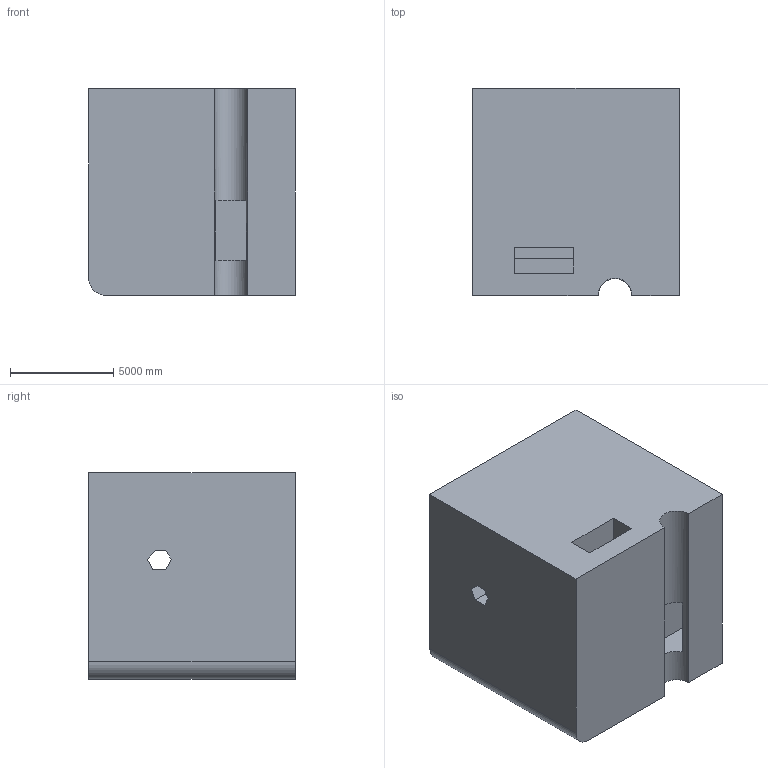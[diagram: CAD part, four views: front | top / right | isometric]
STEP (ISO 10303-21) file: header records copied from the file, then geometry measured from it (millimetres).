
FILE_DESCRIPTION (( 'STEP AP203' ), '1' );
FILE_NAME ('54.STEP', '2022-08-30T14:13:38', ( 'user' ), ( '' ), 'SwSTEP 2.0', 'SolidWorks 2021', '' );
FILE_SCHEMA (( 'CONFIG_CONTROL_DESIGN' ));
Length unit declared in the file: centimetre
Products named in the file (1): 54
Bounding box: 10000 x 10000 x 10000 mm (x, y, z)
Volume: 914703472684.6 mm3; surface area: 763957528.9 mm2
Topology: 1 solids, 1 shells, 29 faces, 81 edges, 54 vertices
Faces by surface type: plane 25, cylinder 4
Entity records: 1014 total; most frequent: CARTESIAN_POINT 165, ORIENTED_EDGE 162, DIRECTION 151, EDGE_CURVE 81, LINE 71, VECTOR 71, VERTEX_POINT 54, AXIS2_PLACEMENT_3D 40
